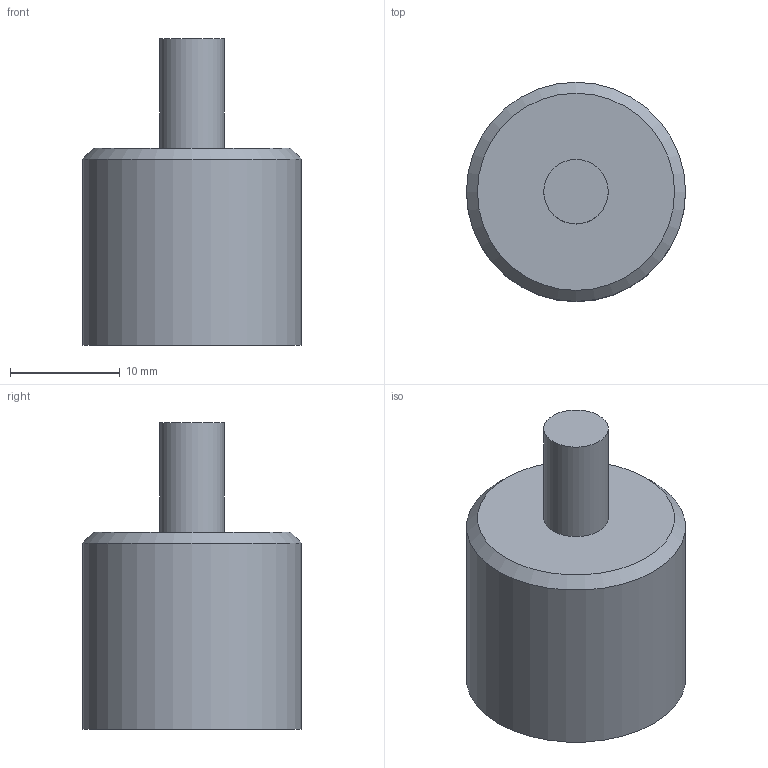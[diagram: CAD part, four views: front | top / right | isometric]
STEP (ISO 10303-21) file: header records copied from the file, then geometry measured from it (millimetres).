
FILE_DESCRIPTION(/* description */ (''),/* implementation_level */ '2;1');
FILE_NAME(/* name */ 'C:/Users/hiroshi_y/Documents/Fusion 360/PMH-0-20x18.step',/* time_stamp */ '2022-11-28T16:51:24+09:00',/* author */ (''),/* organization */ (''),/* preprocessor_version */ 'ST-DEVELOPER v19',/* originating_system */ 'Autodesk Translation Framework v11.7.0.108',/* authorisation */ '');
FILE_SCHEMA (('AUTOMOTIVE_DESIGN { 1 0 10303 214 3 1 1 }'));
Length unit declared in the file: millimetre
Products named in the file (1): PMH-0-20x18
Bounding box: 20 x 20 x 28 mm (x, y, z)
Volume: 5893 mm3; surface area: 1910.6 mm2
Topology: 1 solids, 1 shells, 10 faces, 14 edges, 9 vertices
Faces by surface type: plane 5, cylinder 4, cone 1
Full cylindrical faces by diameter (mm): 5.884 x1, 13 x1, 16 x1, 20 x1
Entity records: 267 total; most frequent: DIRECTION 45, CARTESIAN_POINT 34, ORIENTED_EDGE 28, AXIS2_PLACEMENT_3D 20, EDGE_CURVE 14, EDGE_LOOP 13, FACE_OUTER_BOUND 10, ADVANCED_FACE 10
